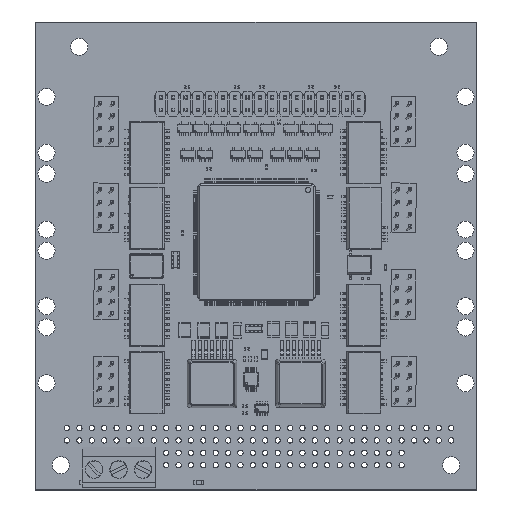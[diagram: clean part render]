
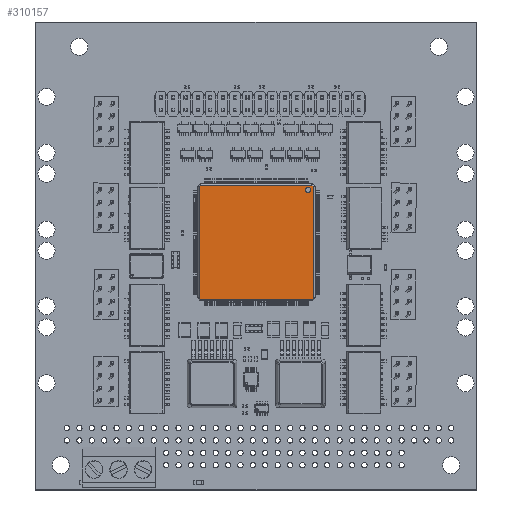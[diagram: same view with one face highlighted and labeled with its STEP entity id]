
A CAD part, top view. The second image highlights one B-rep face of the part: STEP entity #310157.
In plain terms, the highlighted planar face has unit normal (0, 0, 1).
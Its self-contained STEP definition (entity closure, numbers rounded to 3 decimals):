
#4701 = VECTOR ( 'NONE', #80345, 1000. ) ;
#12255 = CARTESIAN_POINT ( 'NONE',  ( 56.883, 39.376, 3.185 ) ) ;
#14466 = CARTESIAN_POINT ( 'NONE',  ( 33.806, 39.051, 3.185 ) ) ;
#26955 = CARTESIAN_POINT ( 'NONE',  ( 33.862, 38.995, 3.185 ) ) ;
#31141 = VERTEX_POINT ( 'NONE', #12255 ) ;
#31626 = CARTESIAN_POINT ( 'NONE',  ( 56.502, 62.509, 3.185 ) ) ;
#42131 = VERTEX_POINT ( 'NONE', #160958 ) ;
#42440 = VERTEX_POINT ( 'NONE', #121726 ) ;
#49696 = EDGE_CURVE ( 'NONE', #150679, #150679, #247940, .T. ) ;
#53173 = DIRECTION ( 'NONE',  ( 0., 0., -1. ) ) ;
#60152 = VERTEX_POINT ( 'NONE', #118307 ) ;
#62454 = LINE ( 'NONE', #31626, #119096 ) ;
#62926 = LINE ( 'NONE', #187980, #110119 ) ;
#65066 = ORIENTED_EDGE ( 'NONE', *, *, #363629, .T. ) ;
#73327 = VECTOR ( 'NONE', #341182, 1000. ) ;
#77185 = VECTOR ( 'NONE', #195292, 1000. ) ;
#78558 = VECTOR ( 'NONE', #111573, 1000. ) ;
#78564 = ORIENTED_EDGE ( 'NONE', *, *, #268383, .T. ) ;
#80345 = DIRECTION ( 'NONE',  ( 0.707, -0.707, 0. ) ) ;
#89219 = LINE ( 'NONE', #373830, #73327 ) ;
#89947 = CARTESIAN_POINT ( 'NONE',  ( 45.182, 50.752, 3.185 ) ) ;
#97041 = AXIS2_PLACEMENT_3D ( 'NONE', #279015, #313658, #188786 ) ;
#104866 = VECTOR ( 'NONE', #314283, 1000. ) ;
#110119 = VECTOR ( 'NONE', #191975, 1000. ) ;
#111573 = DIRECTION ( 'NONE',  ( -1., 0., 0. ) ) ;
#112502 = ORIENTED_EDGE ( 'NONE', *, *, #144445, .T. ) ;
#118307 = CARTESIAN_POINT ( 'NONE',  ( 33.481, 62.128, 3.185 ) ) ;
#119096 = VECTOR ( 'NONE', #402364, 1000. ) ;
#121726 = CARTESIAN_POINT ( 'NONE',  ( 56.558, 39.051, 3.185 ) ) ;
#130158 = EDGE_LOOP ( 'NONE', ( #374806, #214182, #273925, #78564, #324575, #112502, #65066, #140205 ) ) ;
#131463 = VERTEX_POINT ( 'NONE', #144606 ) ;
#140205 = ORIENTED_EDGE ( 'NONE', *, *, #198860, .T. ) ;
#141338 = FACE_OUTER_BOUND ( 'NONE', #130158, .T. ) ;
#144445 = EDGE_CURVE ( 'NONE', #204396, #60152, #62926, .T. ) ;
#144606 = CARTESIAN_POINT ( 'NONE',  ( 33.481, 39.376, 3.185 ) ) ;
#150679 = VERTEX_POINT ( 'NONE', #400389 ) ;
#152494 = ORIENTED_EDGE ( 'NONE', *, *, #49696, .T. ) ;
#158124 = EDGE_CURVE ( 'NONE', #211815, #204396, #392168, .T. ) ;
#160958 = CARTESIAN_POINT ( 'NONE',  ( 56.883, 62.128, 3.185 ) ) ;
#171126 = CARTESIAN_POINT ( 'NONE',  ( 33.726, 62.453, 3.185 ) ) ;
#182229 = LINE ( 'NONE', #210938, #356024 ) ;
#185353 = CARTESIAN_POINT ( 'NONE',  ( 56.883, 62.208, 3.185 ) ) ;
#186988 = CARTESIAN_POINT ( 'NONE',  ( 56.558, 62.453, 3.185 ) ) ;
#187980 = CARTESIAN_POINT ( 'NONE',  ( 33.425, 62.072, 3.185 ) ) ;
#188786 = DIRECTION ( 'NONE',  ( 0., -1., 0. ) ) ;
#191975 = DIRECTION ( 'NONE',  ( -0.707, -0.707, 0. ) ) ;
#195292 = DIRECTION ( 'NONE',  ( 1., 0., 0. ) ) ;
#198860 = EDGE_CURVE ( 'NONE', #131463, #316486, #395697, .T. ) ;
#204396 = VERTEX_POINT ( 'NONE', #255491 ) ;
#210938 = CARTESIAN_POINT ( 'NONE',  ( 33.481, 39.297, 3.185 ) ) ;
#211815 = VERTEX_POINT ( 'NONE', #186988 ) ;
#214182 = ORIENTED_EDGE ( 'NONE', *, *, #258272, .T. ) ;
#247940 = CIRCLE ( 'NONE', #97041, 0.55 ) ;
#250796 = LINE ( 'NONE', #344851, #77185 ) ;
#253987 = EDGE_CURVE ( 'NONE', #31141, #42131, #336941, .T. ) ;
#255491 = CARTESIAN_POINT ( 'NONE',  ( 33.806, 62.453, 3.185 ) ) ;
#258272 = EDGE_CURVE ( 'NONE', #42440, #31141, #89219, .T. ) ;
#268383 = EDGE_CURVE ( 'NONE', #42131, #211815, #62454, .T. ) ;
#273925 = ORIENTED_EDGE ( 'NONE', *, *, #253987, .T. ) ;
#279015 = CARTESIAN_POINT ( 'NONE',  ( 55.782, 61.502, 3.185 ) ) ;
#308239 = EDGE_CURVE ( 'NONE', #316486, #42440, #250796, .T. ) ;
#310157 = ADVANCED_FACE ( 'NONE', ( #356391, #141338 ), #370546, .F. ) ;
#313658 = DIRECTION ( 'NONE',  ( 0., 0., -1. ) ) ;
#314283 = DIRECTION ( 'NONE',  ( 0., 1., 0. ) ) ;
#316486 = VERTEX_POINT ( 'NONE', #14466 ) ;
#324575 = ORIENTED_EDGE ( 'NONE', *, *, #158124, .T. ) ;
#335919 = DIRECTION ( 'NONE',  ( 0., 1., 0. ) ) ;
#336941 = LINE ( 'NONE', #185353, #104866 ) ;
#341182 = DIRECTION ( 'NONE',  ( 0.707, 0.707, 0. ) ) ;
#344851 = CARTESIAN_POINT ( 'NONE',  ( 56.638, 39.051, 3.185 ) ) ;
#346523 = AXIS2_PLACEMENT_3D ( 'NONE', #89947, #53173, #335919 ) ;
#356024 = VECTOR ( 'NONE', #397137, 1000. ) ;
#356391 = FACE_BOUND ( 'NONE', #404945, .T. ) ;
#363629 = EDGE_CURVE ( 'NONE', #60152, #131463, #182229, .T. ) ;
#370546 = PLANE ( 'NONE',  #346523 ) ;
#373830 = CARTESIAN_POINT ( 'NONE',  ( 56.939, 39.432, 3.185 ) ) ;
#374806 = ORIENTED_EDGE ( 'NONE', *, *, #308239, .T. ) ;
#392168 = LINE ( 'NONE', #171126, #78558 ) ;
#395697 = LINE ( 'NONE', #26955, #4701 ) ;
#397137 = DIRECTION ( 'NONE',  ( 0., -1., 0. ) ) ;
#400389 = CARTESIAN_POINT ( 'NONE',  ( 55.782, 60.952, 3.185 ) ) ;
#402364 = DIRECTION ( 'NONE',  ( -0.707, 0.707, 0. ) ) ;
#404945 = EDGE_LOOP ( 'NONE', ( #152494 ) ) ;
